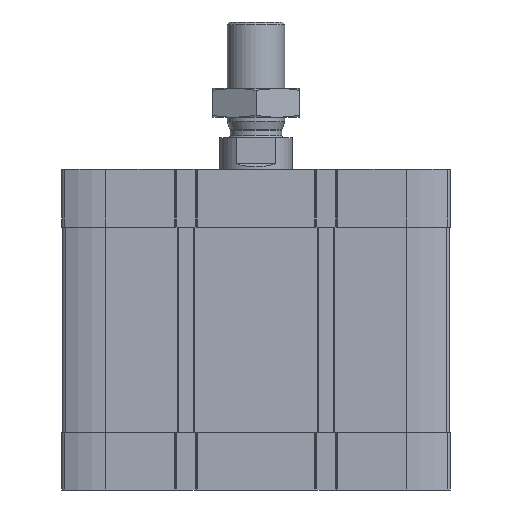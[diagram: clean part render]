
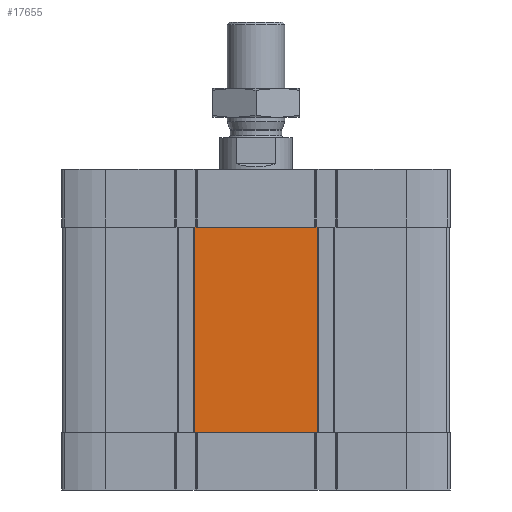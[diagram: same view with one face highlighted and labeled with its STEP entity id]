
A CAD part, front view. The second image highlights one B-rep face of the part: STEP entity #17655.
In plain terms, the highlighted planar face has unit normal (0, -1, 0).
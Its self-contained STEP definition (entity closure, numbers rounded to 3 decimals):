
#83 = VERTEX_POINT ( 'NONE', #16801 ) ;
#97 = EDGE_LOOP ( 'NONE', ( #9172, #2684, #8971, #18019, #5666, #273, #14594, #2020 ) ) ;
#273 = ORIENTED_EDGE ( 'NONE', *, *, #17445, .F. ) ;
#451 = VERTEX_POINT ( 'NONE', #3596 ) ;
#648 = DIRECTION ( 'NONE',  ( 1., 0., 0. ) ) ;
#815 = CARTESIAN_POINT ( 'NONE',  ( -21.3, -67., -91. ) ) ;
#1114 = DIRECTION ( 'NONE',  ( 1., 0., 0. ) ) ;
#1903 = VERTEX_POINT ( 'NONE', #14714 ) ;
#2020 = ORIENTED_EDGE ( 'NONE', *, *, #10955, .F. ) ;
#2103 = LINE ( 'NONE', #10815, #11287 ) ;
#2110 = CARTESIAN_POINT ( 'NONE',  ( 21.3, -67., -91. ) ) ;
#2251 = CARTESIAN_POINT ( 'NONE',  ( -67., -67., -91. ) ) ;
#2352 = VECTOR ( 'NONE', #2444, 1000. ) ;
#2436 = LINE ( 'NONE', #8135, #9626 ) ;
#2444 = DIRECTION ( 'NONE',  ( 1., 0., 0. ) ) ;
#2684 = ORIENTED_EDGE ( 'NONE', *, *, #3311, .T. ) ;
#2770 = VERTEX_POINT ( 'NONE', #5905 ) ;
#3218 = AXIS2_PLACEMENT_3D ( 'NONE', #2251, #6186, #14748 ) ;
#3246 = VERTEX_POINT ( 'NONE', #3302 ) ;
#3302 = CARTESIAN_POINT ( 'NONE',  ( 21.3, -67., -20. ) ) ;
#3311 = EDGE_CURVE ( 'NONE', #1903, #13678, #2103, .T. ) ;
#3596 = CARTESIAN_POINT ( 'NONE',  ( -20.687, -67., -20. ) ) ;
#3847 = EDGE_CURVE ( 'NONE', #7329, #15783, #5241, .T. ) ;
#3970 = VECTOR ( 'NONE', #14755, 1000. ) ;
#5005 = PLANE ( 'NONE',  #3218 ) ;
#5241 = LINE ( 'NONE', #13703, #8336 ) ;
#5545 = EDGE_CURVE ( 'NONE', #451, #83, #2436, .T. ) ;
#5666 = ORIENTED_EDGE ( 'NONE', *, *, #14321, .T. ) ;
#5690 = CARTESIAN_POINT ( 'NONE',  ( -21.3, -67., -91. ) ) ;
#5905 = CARTESIAN_POINT ( 'NONE',  ( -21.3, -67., -20. ) ) ;
#6186 = DIRECTION ( 'NONE',  ( 0., -1., 0. ) ) ;
#6384 = FACE_OUTER_BOUND ( 'NONE', #97, .T. ) ;
#7214 = CARTESIAN_POINT ( 'NONE',  ( -67., -67., -20. ) ) ;
#7329 = VERTEX_POINT ( 'NONE', #8571 ) ;
#8135 = CARTESIAN_POINT ( 'NONE',  ( -21.3, -67., -20. ) ) ;
#8336 = VECTOR ( 'NONE', #1114, 1000. ) ;
#8571 = CARTESIAN_POINT ( 'NONE',  ( 20.687, -67., -91. ) ) ;
#8971 = ORIENTED_EDGE ( 'NONE', *, *, #17271, .T. ) ;
#9144 = CARTESIAN_POINT ( 'NONE',  ( -67., -67., -20. ) ) ;
#9172 = ORIENTED_EDGE ( 'NONE', *, *, #14191, .F. ) ;
#9626 = VECTOR ( 'NONE', #12273, 1000. ) ;
#10291 = LINE ( 'NONE', #2110, #12213 ) ;
#10545 = LINE ( 'NONE', #815, #2352 ) ;
#10815 = CARTESIAN_POINT ( 'NONE',  ( -67., -67., -91. ) ) ;
#10955 = EDGE_CURVE ( 'NONE', #2770, #451, #16138, .T. ) ;
#11287 = VECTOR ( 'NONE', #648, 1000. ) ;
#11298 = DIRECTION ( 'NONE',  ( 0., 0., 1. ) ) ;
#12213 = VECTOR ( 'NONE', #14614, 1000. ) ;
#12273 = DIRECTION ( 'NONE',  ( 1., 0., 0. ) ) ;
#12690 = LINE ( 'NONE', #5690, #15733 ) ;
#13678 = VERTEX_POINT ( 'NONE', #16835 ) ;
#13703 = CARTESIAN_POINT ( 'NONE',  ( -67., -67., -91. ) ) ;
#14191 = EDGE_CURVE ( 'NONE', #1903, #2770, #12690, .T. ) ;
#14321 = EDGE_CURVE ( 'NONE', #15783, #3246, #10291, .T. ) ;
#14594 = ORIENTED_EDGE ( 'NONE', *, *, #5545, .F. ) ;
#14614 = DIRECTION ( 'NONE',  ( 0., 0., 1. ) ) ;
#14714 = CARTESIAN_POINT ( 'NONE',  ( -21.3, -67., -91. ) ) ;
#14748 = DIRECTION ( 'NONE',  ( 0., 0., -1. ) ) ;
#14755 = DIRECTION ( 'NONE',  ( 1., 0., 0. ) ) ;
#14982 = VECTOR ( 'NONE', #17238, 1000. ) ;
#15733 = VECTOR ( 'NONE', #11298, 1000. ) ;
#15783 = VERTEX_POINT ( 'NONE', #16257 ) ;
#15858 = LINE ( 'NONE', #7214, #14982 ) ;
#16138 = LINE ( 'NONE', #9144, #3970 ) ;
#16257 = CARTESIAN_POINT ( 'NONE',  ( 21.3, -67., -91. ) ) ;
#16801 = CARTESIAN_POINT ( 'NONE',  ( 20.687, -67., -20. ) ) ;
#16835 = CARTESIAN_POINT ( 'NONE',  ( -20.687, -67., -91. ) ) ;
#17238 = DIRECTION ( 'NONE',  ( 1., 0., 0. ) ) ;
#17271 = EDGE_CURVE ( 'NONE', #13678, #7329, #10545, .T. ) ;
#17445 = EDGE_CURVE ( 'NONE', #83, #3246, #15858, .T. ) ;
#17655 = ADVANCED_FACE ( 'NONE', ( #6384 ), #5005, .T. ) ;
#18019 = ORIENTED_EDGE ( 'NONE', *, *, #3847, .T. ) ;
